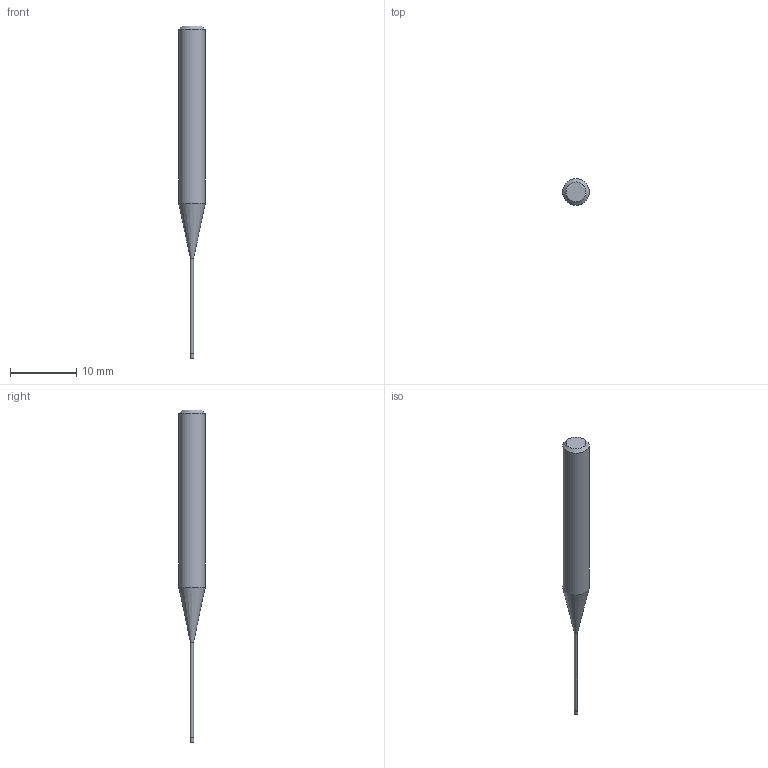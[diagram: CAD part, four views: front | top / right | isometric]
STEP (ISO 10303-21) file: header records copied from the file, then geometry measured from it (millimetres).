
FILE_DESCRIPTION((''),'2;1');
FILE_NAME('C:\Users\nsx150\AppData\Local\Temp\Mastercam 2021\17T8Q8S9EB\TEMP.step','2021-04-21T14:24:41',(''),(''),'STEP Write','Mastercam 2021 ... CNC Software, Inc.','');
FILE_SCHEMA(('AUTOMOTIVE_DESIGN'));
Length unit declared in the file: millimetre
Products named in the file (1): None
Bounding box: 4 x 4 x 50 mm (x, y, z)
Volume: 375.6 mm3; surface area: 425.7 mm2
Topology: 2 solids, 2 shells, 9 faces, 12 edges, 7 vertices
Faces by surface type: plane 4, cylinder 3, cone 2
Full cylindrical faces by diameter (mm): 0.46 x1, 0.5 x1, 4 x1
Entity records: 211 total; most frequent: DIRECTION 36, CARTESIAN_POINT 25, AXIS2_PLACEMENT_3D 18, ORIENTED_EDGE 14, EDGE_LOOP 14, STYLED_ITEM 12, ADVANCED_FACE 9, FACE_BOUND 8
